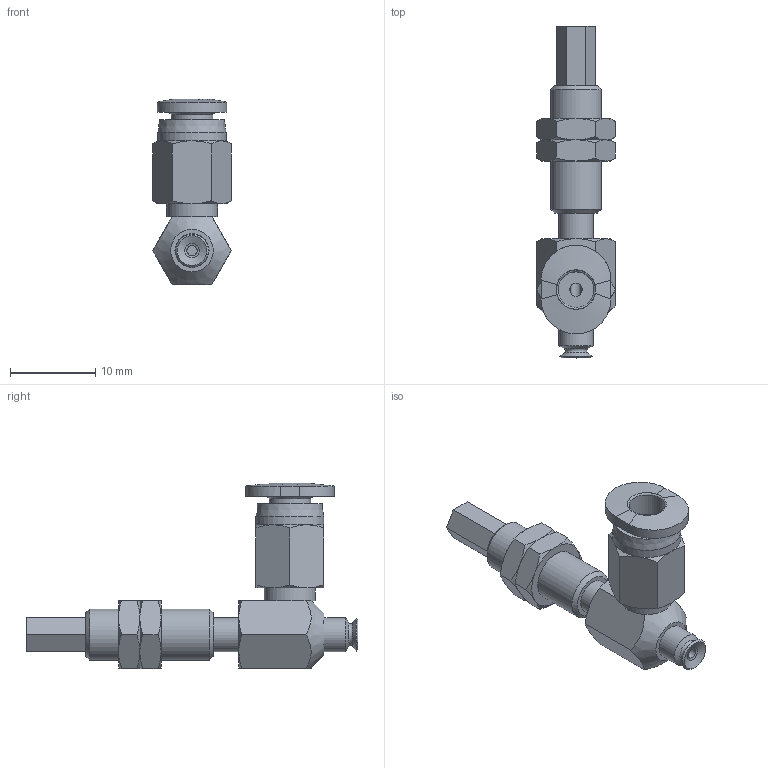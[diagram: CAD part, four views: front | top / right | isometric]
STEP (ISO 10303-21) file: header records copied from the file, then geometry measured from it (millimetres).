
FILE_DESCRIPTION(('STEP AP203'),'1');
FILE_NAME('-O.stp','2025-04-09T05:18:07',(' '),(' '),'Spatial InterOp 3D',' ',' ');
FILE_SCHEMA(('CONFIG_CONTROL_DESIGN'));
Length unit declared in the file: millimetre
Products named in the file (7): BNABPFYS-3.5A-3-※-O; CONNECTOR-3.5A-3; Nut-3.5A-3-s; NAPFTS-3.5A-3-FBODY; NAPFTS-3.5A-3-MBODY; BPFG-3.5A-※; PC-C_04-M3
Assembly tree (7 placements, depth 2):
  BNABPFYS-3.5A-3-※-O
    CONNECTOR-3.5A-3
    Nut-3.5A-3-s  x2
    NAPFTS-3.5A-3-FBODY
    NAPFTS-3.5A-3-MBODY
    BPFG-3.5A-※
    PC-C_04-M3
Bounding box: 9.24 x 39 x 21.77 mm (x, y, z)
Volume: 1225 mm3; surface area: 2603.2 mm2
Topology: 6 solids, 8 shells, 177 faces, 370 edges, 222 vertices
Faces by surface type: plane 73, cone 63, cylinder 24, torus 9, bspline 5, revolution 3
Full cylindrical faces by diameter (mm): 1.2 x2, 2 x2, 2.459 x2, 2.5 x2, 3 x4, 4 x3, 4.9 x1, 5.188 x2, 6 x2, 6.1 x1, 8 x1
Entity records: 4537 total; most frequent: CARTESIAN_POINT 1253, DIRECTION 611, ORIENTED_EDGE 524, AXIS2_PLACEMENT_3D 267, EDGE_CURVE 263, EDGE_LOOP 228, VERTEX_POINT 185, FACE_OUTER_BOUND 125
